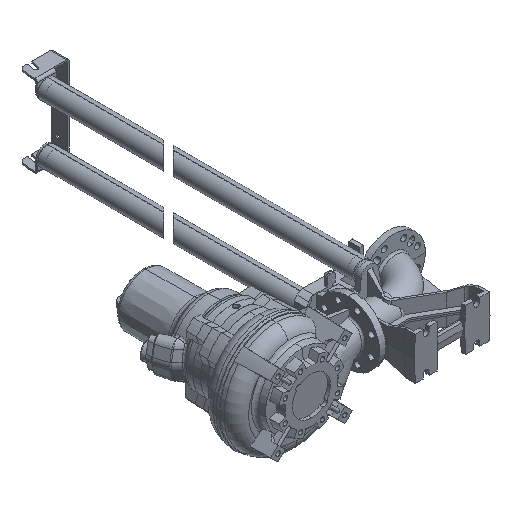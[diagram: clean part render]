
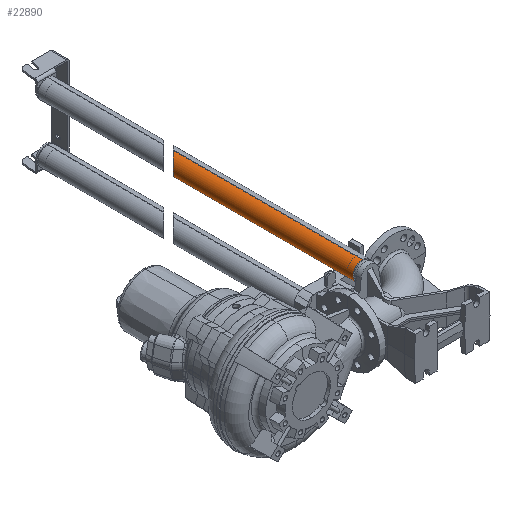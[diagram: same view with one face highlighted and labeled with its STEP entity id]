
A CAD part, isometric view. The second image highlights one B-rep face of the part: STEP entity #22890.
In plain terms, the highlighted cylindrical face has radius 30.15 mm (diameter 60.3 mm), a partial arc.
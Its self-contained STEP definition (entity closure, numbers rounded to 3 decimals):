
#93 = LINE ( 'NONE', #34208, #28841 ) ;
#2588 = CARTESIAN_POINT ( 'NONE',  ( 333.5, -55.029, 122.65 ) ) ;
#4884 = DIRECTION ( 'NONE',  ( 0., -1., 0. ) ) ;
#5315 = CYLINDRICAL_SURFACE ( 'NONE', #8397, 30.15 ) ;
#6106 = DIRECTION ( 'NONE',  ( 0., 0., -1. ) ) ;
#8397 = AXIS2_PLACEMENT_3D ( 'NONE', #15037, #4884, #34840 ) ;
#11649 = EDGE_LOOP ( 'NONE', ( #39742, #13505, #19198, #27547 ) ) ;
#13023 = VERTEX_POINT ( 'NONE', #15552 ) ;
#13505 = ORIENTED_EDGE ( 'NONE', *, *, #24404, .T. ) ;
#13976 = DIRECTION ( 'NONE',  ( 0., -1., 0. ) ) ;
#15037 = CARTESIAN_POINT ( 'NONE',  ( 333.5, -55.029, 92.5 ) ) ;
#15552 = CARTESIAN_POINT ( 'NONE',  ( 333.5, 524.53, 122.65 ) ) ;
#16060 = DIRECTION ( 'NONE',  ( 0., -1., 0. ) ) ;
#17605 = CARTESIAN_POINT ( 'NONE',  ( 333.5, 524.53, 122.65 ) ) ;
#19198 = ORIENTED_EDGE ( 'NONE', *, *, #25205, .T. ) ;
#20393 = CIRCLE ( 'NONE', #26013, 30.15 ) ;
#20687 = CARTESIAN_POINT ( 'NONE',  ( 273.2, 464.23, 62.35 ) ) ;
#22324 = EDGE_CURVE ( 'NONE', #38590, #25399, #20393, .T. ) ;
#22890 = ADVANCED_FACE ( 'NONE', ( #38820 ), #5315, .T. ) ;
#23845 = CARTESIAN_POINT ( 'NONE',  ( 333.5, -77.029, 122.65 ) ) ;
#24404 = EDGE_CURVE ( 'NONE', #13023, #42525, #33350, .T. ) ;
#25205 = EDGE_CURVE ( 'NONE', #42525, #25399, #93, .T. ) ;
#25316 = CARTESIAN_POINT ( 'NONE',  ( 333.5, -77.029, 92.5 ) ) ;
#25399 = VERTEX_POINT ( 'NONE', #40060 ) ;
#26013 = AXIS2_PLACEMENT_3D ( 'NONE', #25316, #35878, #6106 ) ;
#26471 = EDGE_CURVE ( 'NONE', #13023, #38590, #30131, .T. ) ;
#27547 = ORIENTED_EDGE ( 'NONE', *, *, #22324, .F. ) ;
#28841 = VECTOR ( 'NONE', #13976, 1000. ) ;
#30131 = LINE ( 'NONE', #2588, #39437 ) ;
#31021 = CARTESIAN_POINT ( 'NONE',  ( 333.5, 524.53, 62.35 ) ) ;
#33350 =( BOUNDED_CURVE ( )  B_SPLINE_CURVE ( 3, ( #17605, #41568, #20687, #31021 ),
 .UNSPECIFIED., .F., .T. ) 
 B_SPLINE_CURVE_WITH_KNOTS ( ( 4, 4 ),
 ( 4.712, 7.854 ),
 .UNSPECIFIED. ) 
 CURVE ( )  GEOMETRIC_REPRESENTATION_ITEM ( )  RATIONAL_B_SPLINE_CURVE ( ( 1., 0.333, 0.333, 1. ) ) 
 REPRESENTATION_ITEM ( '' )  );
#34208 = CARTESIAN_POINT ( 'NONE',  ( 333.5, -55.029, 62.35 ) ) ;
#34840 = DIRECTION ( 'NONE',  ( 0., 0., -1. ) ) ;
#35878 = DIRECTION ( 'NONE',  ( 0., -1., 0. ) ) ;
#37219 = CARTESIAN_POINT ( 'NONE',  ( 333.5, 524.53, 62.35 ) ) ;
#38590 = VERTEX_POINT ( 'NONE', #23845 ) ;
#38820 = FACE_OUTER_BOUND ( 'NONE', #11649, .T. ) ;
#39437 = VECTOR ( 'NONE', #16060, 1000. ) ;
#39742 = ORIENTED_EDGE ( 'NONE', *, *, #26471, .F. ) ;
#40060 = CARTESIAN_POINT ( 'NONE',  ( 333.5, -77.029, 62.35 ) ) ;
#41568 = CARTESIAN_POINT ( 'NONE',  ( 273.2, 464.23, 122.65 ) ) ;
#42525 = VERTEX_POINT ( 'NONE', #37219 ) ;
